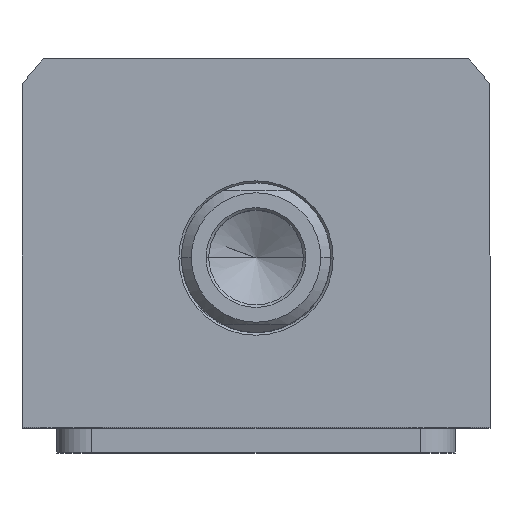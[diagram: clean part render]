
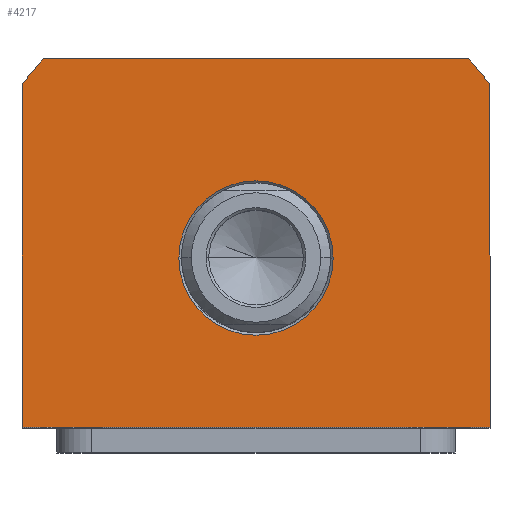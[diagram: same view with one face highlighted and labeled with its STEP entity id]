
A CAD part, top view. The second image highlights one B-rep face of the part: STEP entity #4217.
In plain terms, the highlighted planar face has unit normal (0, 0, 1).
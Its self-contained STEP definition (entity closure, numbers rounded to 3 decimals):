
#112 = CARTESIAN_POINT ( 'NONE',  ( -47., -34., 62.5 ) ) ;
#133 = EDGE_CURVE ( 'NONE', #4442, #8440, #8328, .T. ) ;
#140 = CARTESIAN_POINT ( 'NONE',  ( 0., 0., 62.5 ) ) ;
#185 = EDGE_CURVE ( 'NONE', #11199, #9155, #11749, .T. ) ;
#447 = VECTOR ( 'NONE', #5543, 1000. ) ;
#761 = DIRECTION ( 'NONE',  ( 1., 0., 0. ) ) ;
#779 = AXIS2_PLACEMENT_3D ( 'NONE', #8002, #4422, #761 ) ;
#1279 = DIRECTION ( 'NONE',  ( 1., 0., 0. ) ) ;
#1623 = EDGE_CURVE ( 'NONE', #11054, #5351, #9301, .T. ) ;
#1901 = ORIENTED_EDGE ( 'NONE', *, *, #185, .T. ) ;
#2038 = LINE ( 'NONE', #5258, #4765 ) ;
#2043 = EDGE_CURVE ( 'NONE', #10889, #11199, #11036, .T. ) ;
#2727 = PLANE ( 'NONE',  #3073 ) ;
#2748 = LINE ( 'NONE', #3849, #447 ) ;
#2756 = AXIS2_PLACEMENT_3D ( 'NONE', #8879, #3362, #10688 ) ;
#2997 = VECTOR ( 'NONE', #7554, 1000. ) ;
#3073 = AXIS2_PLACEMENT_3D ( 'NONE', #4608, #9078, #5418 ) ;
#3362 = DIRECTION ( 'NONE',  ( 0., 0., 1. ) ) ;
#3447 = DIRECTION ( 'NONE',  ( -1., 0., 0. ) ) ;
#3849 = CARTESIAN_POINT ( 'NONE',  ( 47., -34., 62.5 ) ) ;
#3881 = FACE_OUTER_BOUND ( 'NONE', #10454, .T. ) ;
#4053 = DIRECTION ( 'NONE',  ( 0., 1., 0. ) ) ;
#4055 = ORIENTED_EDGE ( 'NONE', *, *, #7270, .T. ) ;
#4217 = ADVANCED_FACE ( 'NONE', ( #5186, #3881 ), #2727, .T. ) ;
#4422 = DIRECTION ( 'NONE',  ( 0., 0., -1. ) ) ;
#4442 = VERTEX_POINT ( 'NONE', #7433 ) ;
#4608 = CARTESIAN_POINT ( 'NONE',  ( 0., 0., 62.5 ) ) ;
#4714 = DIRECTION ( 'NONE',  ( 0., 0., -1. ) ) ;
#4765 = VECTOR ( 'NONE', #3447, 1000. ) ;
#4854 = CARTESIAN_POINT ( 'NONE',  ( 47., 34.832, 62.5 ) ) ;
#4941 = ORIENTED_EDGE ( 'NONE', *, *, #133, .T. ) ;
#5186 = FACE_BOUND ( 'NONE', #5695, .T. ) ;
#5258 = CARTESIAN_POINT ( 'NONE',  ( -42.688, 40., 62.5 ) ) ;
#5351 = VERTEX_POINT ( 'NONE', #7771 ) ;
#5418 = DIRECTION ( 'NONE',  ( 1., 0., 0. ) ) ;
#5543 = DIRECTION ( 'NONE',  ( 1., 0., 0. ) ) ;
#5644 = CIRCLE ( 'NONE', #11533, 58.5 ) ;
#5695 = EDGE_LOOP ( 'NONE', ( #6997, #4941 ) ) ;
#5978 = DIRECTION ( 'NONE',  ( 0., 0., 1. ) ) ;
#6083 = ORIENTED_EDGE ( 'NONE', *, *, #10944, .T. ) ;
#6384 = CARTESIAN_POINT ( 'NONE',  ( -47., 34.832, 62.5 ) ) ;
#6493 = CIRCLE ( 'NONE', #779, 15.5 ) ;
#6503 = DIRECTION ( 'NONE',  ( 1., 0., 0. ) ) ;
#6728 = VECTOR ( 'NONE', #4053, 1000. ) ;
#6894 = CARTESIAN_POINT ( 'NONE',  ( -42.688, 40., 62.5 ) ) ;
#6997 = ORIENTED_EDGE ( 'NONE', *, *, #8676, .T. ) ;
#7184 = AXIS2_PLACEMENT_3D ( 'NONE', #140, #4714, #6503 ) ;
#7270 = EDGE_CURVE ( 'NONE', #11296, #10889, #2038, .T. ) ;
#7388 = ORIENTED_EDGE ( 'NONE', *, *, #2043, .T. ) ;
#7433 = CARTESIAN_POINT ( 'NONE',  ( -15.5, 0., 62.5 ) ) ;
#7554 = DIRECTION ( 'NONE',  ( 0., -1., 0. ) ) ;
#7771 = CARTESIAN_POINT ( 'NONE',  ( 47., 34.832, 62.5 ) ) ;
#8002 = CARTESIAN_POINT ( 'NONE',  ( 0., 0., 62.5 ) ) ;
#8198 = CARTESIAN_POINT ( 'NONE',  ( 42.688, 40., 62.5 ) ) ;
#8267 = ORIENTED_EDGE ( 'NONE', *, *, #8301, .T. ) ;
#8301 = EDGE_CURVE ( 'NONE', #9155, #11054, #2748, .T. ) ;
#8328 = CIRCLE ( 'NONE', #7184, 15.5 ) ;
#8440 = VERTEX_POINT ( 'NONE', #10175 ) ;
#8676 = EDGE_CURVE ( 'NONE', #8440, #4442, #6493, .T. ) ;
#8788 = CARTESIAN_POINT ( 'NONE',  ( 47., -34., 62.5 ) ) ;
#8879 = CARTESIAN_POINT ( 'NONE',  ( 0., 0., 62.5 ) ) ;
#9078 = DIRECTION ( 'NONE',  ( 0., 0., 1. ) ) ;
#9155 = VERTEX_POINT ( 'NONE', #10271 ) ;
#9301 = LINE ( 'NONE', #4854, #6728 ) ;
#10175 = CARTESIAN_POINT ( 'NONE',  ( 15.5, 0., 62.5 ) ) ;
#10271 = CARTESIAN_POINT ( 'NONE',  ( -47., -34., 62.5 ) ) ;
#10439 = CARTESIAN_POINT ( 'NONE',  ( 0., 0., 62.5 ) ) ;
#10454 = EDGE_LOOP ( 'NONE', ( #8267, #11758, #6083, #4055, #7388, #1901 ) ) ;
#10688 = DIRECTION ( 'NONE',  ( 1., 0., 0. ) ) ;
#10889 = VERTEX_POINT ( 'NONE', #6894 ) ;
#10944 = EDGE_CURVE ( 'NONE', #5351, #11296, #5644, .T. ) ;
#11036 = CIRCLE ( 'NONE', #2756, 58.5 ) ;
#11054 = VERTEX_POINT ( 'NONE', #8788 ) ;
#11199 = VERTEX_POINT ( 'NONE', #6384 ) ;
#11296 = VERTEX_POINT ( 'NONE', #8198 ) ;
#11533 = AXIS2_PLACEMENT_3D ( 'NONE', #10439, #5978, #1279 ) ;
#11749 = LINE ( 'NONE', #112, #2997 ) ;
#11758 = ORIENTED_EDGE ( 'NONE', *, *, #1623, .T. ) ;
